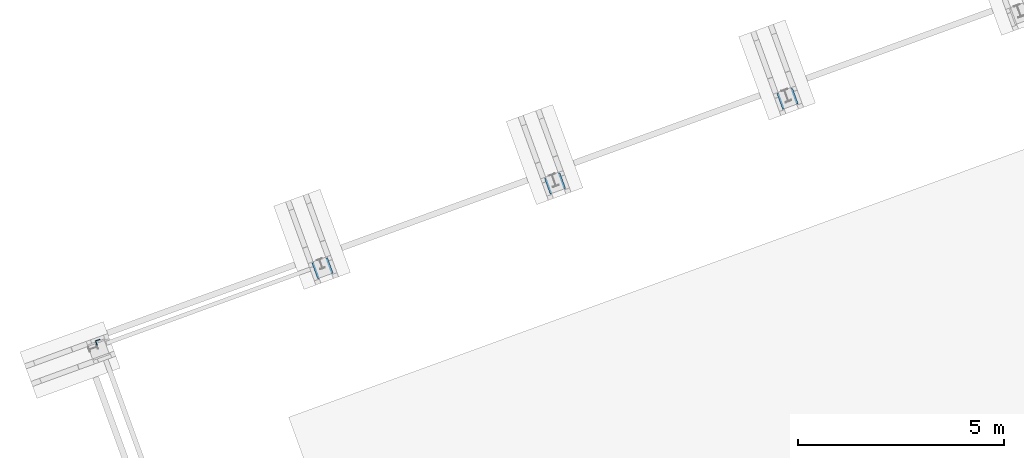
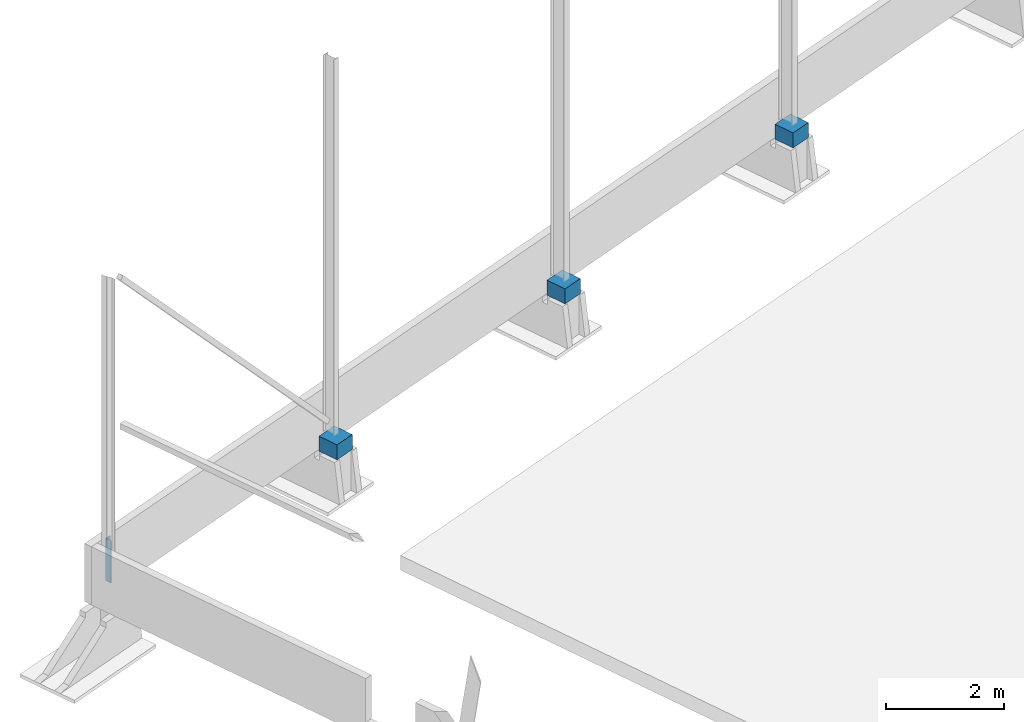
# One storey, part 10 of 20: 4 beams, 4 elements without a shape of their own.
"""IFC4 building model written with IfcOpenShell, lengths in millimetres."""

from ifc_helpers import new_model, si_unit, direction, frame, origin_with_axes, place, context, subcontext, project, spatial, line, indexed_curve, outline, extrude, material, element, aggregate, save


model = new_model("IFC4")

# Units and contexts
model_context = context("Model", 3, precision=0.2, world=frame((203566.813, 116264.779, 0.0), z_axis=(0.0, 0.0, 1.0), x_axis=(1.0, 0.0, 0.0)), true_north=direction((-0.9396138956, -0.3422363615)))
body_context = subcontext(model_context, "Body", "Model", "MODEL_VIEW")
ifc_project = project(units=[si_unit("LENGTHUNIT", "METRE", prefix="MILLI"), si_unit("AREAUNIT", "SQUARE_METRE"), si_unit("VOLUMEUNIT", "CUBIC_METRE"), si_unit("MASSUNIT", "GRAM", prefix="KILO"), si_unit("TIMEUNIT", "SECOND"), si_unit("PLANEANGLEUNIT", "RADIAN"), si_unit("SOLIDANGLEUNIT", "STERADIAN"), si_unit("THERMODYNAMICTEMPERATUREUNIT", "DEGREE_CELSIUS"), si_unit("LUMINOUSINTENSITYUNIT", "LUMEN")], contexts=[model_context])

# Site, building, storey
site_placement = place(None, origin_with_axes())
site = spatial("IfcSite", under=ifc_project, at=site_placement, Name="Nobelprojektet", CompositionType="ELEMENT")
building_placement = place(site_placement, origin_with_axes())
building = spatial("IfcBuilding", under=site, at=building_placement, Name="Hall B", CompositionType="ELEMENT")
storey_placement = place(building_placement, frame((0.0, 0.0, 1000.0), z_axis=(0.0, 0.0, 1.0), x_axis=(1.0, 0.0, 0.0)))
storey = spatial("IfcBuildingStorey", under=building, at=storey_placement, Name="Plan_1", CompositionType="ELEMENT", Elevation=1000.0)

# Assembly, beam
assembly_1_placement = place(storey_placement, frame((128619.62171, 173831.42355, 133049.99997), z_axis=(0.3422371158, -0.9396136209, 1.3e-09), x_axis=(0.0, 0.0, -1.0)))
assembly_1 = element("IfcElementAssembly", 1, at=assembly_1_placement, inside=storey, Name="BEFINTLIG", PredefinedType="NOTDEFINED")
ifc_material_1 = material(Name="S355J2", Category="STEEL")
beam_1_placement = place(assembly_1_placement, origin_with_axes())
beam_1 = element("IfcBeam", 2, at=beam_1_placement, material=ifc_material_1, Name="BEFINTLIG", PredefinedType="NOTDEFINED", context=body_context, shape_type="SolidModel", body=[
    extrude(outline(indexed_curve([(-60.0, -60.0), (60.0, -60.0), (60.0, -48.0), (-48.0, -48.0), (-48.0, 60.0), (-60.0, 60.0)], segments=[line(1, 2, 3, 4, 5, 6, 1)])), frame((0.0, 0.0, 0.0), z_axis=(-1.0, 0.0, 0.0), x_axis=(0.0, 0.0, 1.0)), (0.0, 0.0, -1.0), 870.0),
])
aggregate(assembly_1, [beam_1])

assembly_2_placement = place(storey_placement, frame((134120.83775, 175441.35834, 132024.99996), z_axis=(-0.9396136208, -0.3422371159, 0.0), x_axis=(-0.3422371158, 0.9396136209, 1.3e-09)))
assembly_2 = element("IfcElementAssembly", 3, at=assembly_2_placement, inside=storey, Name="BALK", PredefinedType="NOTDEFINED")
ifc_material_2 = material(Name="C25/30", Category="CONCRETE")
beam_2_placement = place(assembly_2_placement, origin_with_axes())
beam_2 = element("IfcBeam", 4, at=beam_2_placement, material=ifc_material_2, Name="BEFINTLIG", PredefinedType="NOTDEFINED", context=body_context, shape_type="SolidModel", body=[
    extrude(outline(indexed_curve([(-200.0, -155.0), (200.0, -155.0), (200.0, 155.0), (-200.0, 155.0)], segments=[line(1, 2, 3, 4, 1)])), frame((0.0, 0.0, 0.0), z_axis=(-1.0, 0.0, 0.0), x_axis=(0.0, 0.0, 1.0)), (0.0, 0.0, -1.0), 400.0),
])
aggregate(assembly_2, [beam_2])

assembly_3_placement = place(storey_placement, frame((139758.51948, 177494.78104, 132024.99996), z_axis=(-0.9396136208, -0.3422371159, 0.0), x_axis=(-0.3422371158, 0.9396136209, 1.3e-09)))
assembly_3 = element("IfcElementAssembly", 5, at=assembly_3_placement, inside=storey, Name="BEFINTLIG", PredefinedType="NOTDEFINED")
beam_3_placement = place(assembly_3_placement, origin_with_axes())
beam_3 = element("IfcBeam", 6, at=beam_3_placement, material=ifc_material_2, Name="BEFINTLIG", PredefinedType="NOTDEFINED", context=body_context, shape_type="SolidModel", body=[
    extrude(outline(indexed_curve([(-200.0, -155.0), (200.0, -155.0), (200.0, 155.0), (-200.0, 155.0)], segments=[line(1, 2, 3, 4, 1)])), frame((0.0, 0.0, 0.0), z_axis=(-1.0, 0.0, 0.0), x_axis=(0.0, 0.0, 1.0)), (0.0, 0.0, -1.0), 400.0),
])
aggregate(assembly_3, [beam_3])

assembly_4_placement = place(storey_placement, frame((145396.2012, 179548.20373, 132024.99996), z_axis=(-0.9396136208, -0.3422371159, 0.0), x_axis=(-0.3422371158, 0.9396136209, 1.3e-09)))
assembly_4 = element("IfcElementAssembly", 7, at=assembly_4_placement, inside=storey, Name="BEFINTLIG", PredefinedType="NOTDEFINED")
beam_4_placement = place(assembly_4_placement, origin_with_axes())
beam_4 = element("IfcBeam", 8, at=beam_4_placement, material=ifc_material_2, Name="BEFINTLIG", PredefinedType="NOTDEFINED", context=body_context, shape_type="SolidModel", body=[
    extrude(outline(indexed_curve([(-200.0, -155.0), (200.0, -155.0), (200.0, 155.0), (-200.0, 155.0)], segments=[line(1, 2, 3, 4, 1)])), frame((0.0, 0.0, 0.0), z_axis=(-1.0, 0.0, 0.0), x_axis=(0.0, 0.0, 1.0)), (0.0, 0.0, -1.0), 400.0),
])
aggregate(assembly_4, [beam_4])

save(model, "model.ifc")
